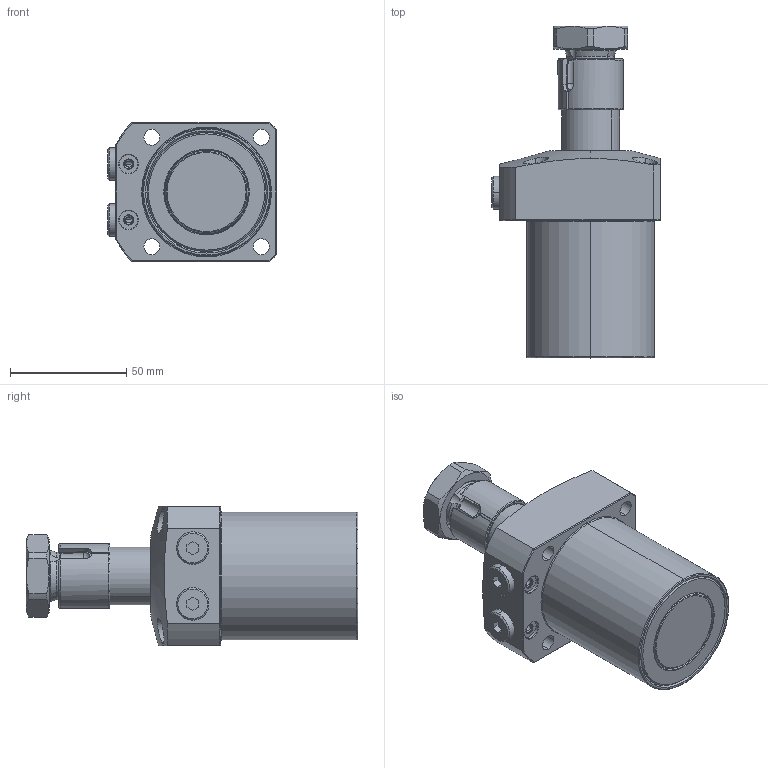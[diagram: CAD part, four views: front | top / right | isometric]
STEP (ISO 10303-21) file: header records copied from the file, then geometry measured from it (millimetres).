
FILE_DESCRIPTION(/* description */ (''),/* implementation_level */ '2;1');
FILE_NAME(/* name */ 'KTRC55-RN45.stp',/* time_stamp */ '2022-11-18T09:58:31+08:00',/* author */ (''),/* organization */ (''),/* preprocessor_version */ 'ST-DEVELOPER v16.7',/* originating_system */ 'SIEMENS PLM Software NX 12.0',/* authorisation */ '');
FILE_SCHEMA (('AP203_CONFIGURATION_CONTROLLED_3D_DESIGN_OF_MECHANICAL_PARTS_AND_ASSEMBLIES_MIM_LF { 1 0 10303 403 2 1 2}'));
Length unit declared in the file: millimetre
Products named in the file (7): KTRC55-RN45-06; KTRC55-RN45-05; KTRC55-RN45-04; KTRC55-RN45-03; KTRC55-RN45-02; KTRC55-RN45-01; LHA0550-CL-Y45_step
Assembly tree (7 placements, depth 2):
  LHA0550-CL-Y45_step
    KTRC55-RN45-01
    KTRC55-RN45-02
    KTRC55-RN45-03
    KTRC55-RN45-04  x2
    KTRC55-RN45-05
    KTRC55-RN45-06
Bounding box: 72.5 x 142.6 x 60 mm (x, y, z)
Volume: 278920.6 mm3; surface area: 44080.9 mm2
Topology: 7 solids, 7 shells, 240 faces, 573 edges, 359 vertices
Faces by surface type: cylinder 81, plane 78, cone 55, torus 24, sphere 2
Entity records: 8108 total; most frequent: CARTESIAN_POINT 1971, DIRECTION 1159, ORIENTED_EDGE 1086, EDGE_CURVE 543, AXIS2_PLACEMENT_3D 477, VERTEX_POINT 341, EDGE_LOOP 254, CIRCLE 242
